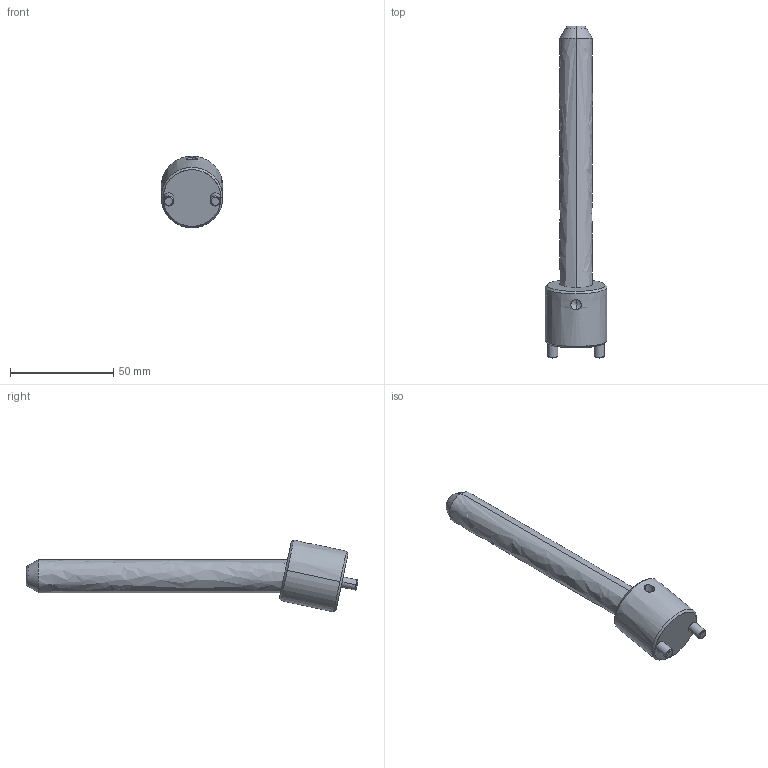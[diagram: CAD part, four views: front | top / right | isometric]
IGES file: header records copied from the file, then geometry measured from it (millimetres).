
Start section: START RECORD GO HERE.
Global section: file name: CI1216125.igs; native system: DASSAULT SYSTEMES CATIA V5 R20 - www.3ds.com; preprocessor: CATIA Version 5 Release 20 ; author: r.borello; organization: CFTORINO; date: 20190621.160336; units: millimetre
Bounding box: 30 x 160.76 x 34.75 mm (x, y, z)
Surface area: 13226.9 mm2 (no closed solid volume)
Topology: 0 solids, 0 shells, 39 faces, 162 edges, 160 vertices
Faces by surface type: revolution 32, plane 7
